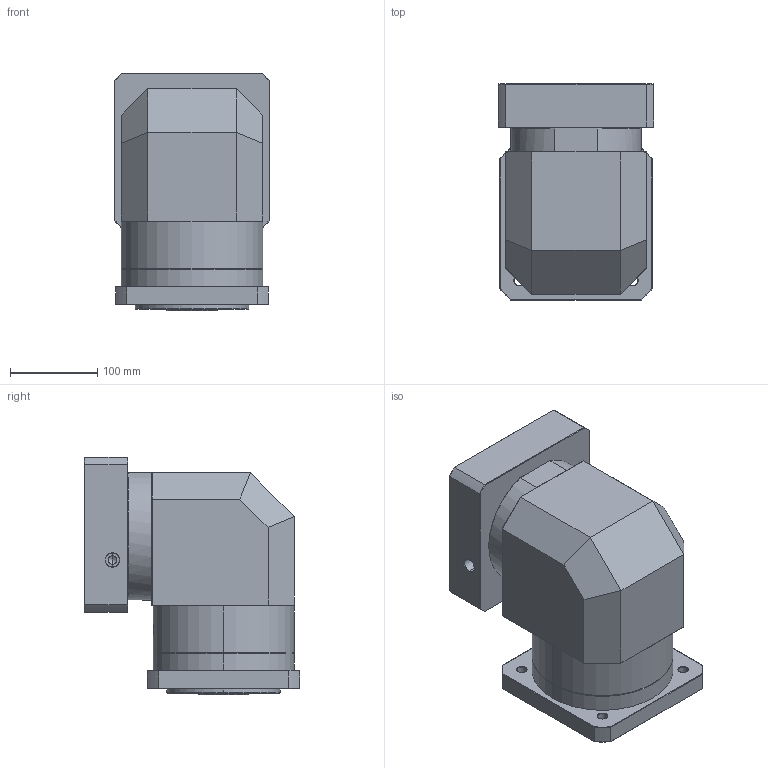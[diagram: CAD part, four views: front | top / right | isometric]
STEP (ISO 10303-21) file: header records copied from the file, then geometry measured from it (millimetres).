
FILE_DESCRIPTION (( 'STEP AP214' ), '1' );
FILE_NAME ('ZFR160A-K35-L1-P2-35-150-200-M12.step', '2023-09-03T09:01:26', ( '' ), ( '' ), 'SwSTEP 2.0', 'SolidWorks 2016', '' );
FILE_SCHEMA (( 'AUTOMOTIVE_DESIGN' ));
Length unit declared in the file: millimetre
Products named in the file (1): ZFR160A-K35-L1-P2-35-150-200-M12
Bounding box: 178 x 247.5 x 272.7 mm (x, y, z)
Volume: 6866162.4 mm3; surface area: 461696.9 mm2
Topology: 6 solids, 6 shells, 2131 faces, 5639 edges, 3615 vertices
Faces by surface type: plane 1039, bspline 403, cylinder 367, cone 302, torus 20
Entity records: 118165 total; most frequent: CARTESIAN_POINT 46991, ORIENTED_EDGE 11222, DIRECTION 8143, EDGE_CURVE 5611, VERTEX_POINT 3615, VECTOR 3023, LINE 3023, AXIS2_PLACEMENT_3D 2560
